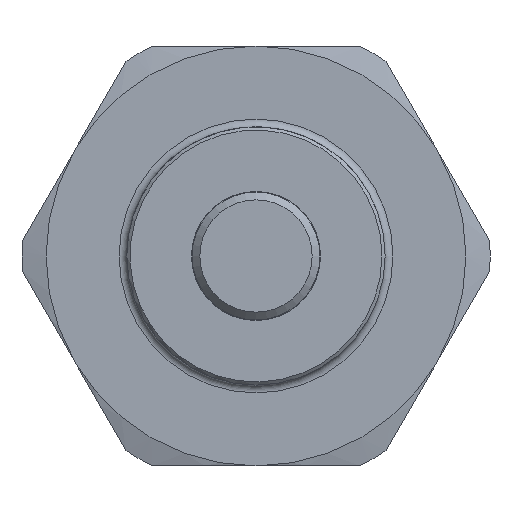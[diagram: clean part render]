
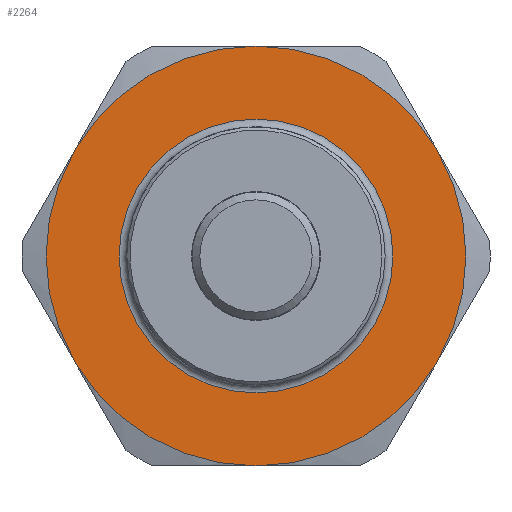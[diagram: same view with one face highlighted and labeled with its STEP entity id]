
A CAD part, left-side view. The second image highlights one B-rep face of the part: STEP entity #2264.
In plain terms, the highlighted planar face has unit normal (-1, 0, 0).
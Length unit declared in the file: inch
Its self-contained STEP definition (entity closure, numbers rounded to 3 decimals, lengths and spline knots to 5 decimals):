
#148=FACE_BOUND('',#603,.T.);
#171=PLANE('',#2585);
#459=FACE_OUTER_BOUND('',#602,.T.);
#602=EDGE_LOOP('',(#1932,#1933,#1934,#1935,#1936,#1937));
#603=EDGE_LOOP('',(#1938,#1939));
#654=CIRCLE('',#2351,0.53);
#655=CIRCLE('',#2352,0.53);
#803=CIRCLE('',#2586,0.8125);
#804=CIRCLE('',#2587,0.8125);
#805=CIRCLE('',#2588,0.8125);
#806=CIRCLE('',#2589,0.8125);
#807=CIRCLE('',#2590,0.8125);
#808=CIRCLE('',#2591,0.8125);
#854=VERTEX_POINT('',#3406);
#855=VERTEX_POINT('',#3408);
#1030=VERTEX_POINT('',#4575);
#1031=VERTEX_POINT('',#4576);
#1032=VERTEX_POINT('',#4578);
#1033=VERTEX_POINT('',#4580);
#1034=VERTEX_POINT('',#4582);
#1035=VERTEX_POINT('',#4584);
#1087=EDGE_CURVE('',#855,#854,#654,.T.);
#1088=EDGE_CURVE('',#854,#855,#655,.T.);
#1336=EDGE_CURVE('',#1030,#1031,#803,.T.);
#1337=EDGE_CURVE('',#1032,#1030,#804,.T.);
#1338=EDGE_CURVE('',#1033,#1032,#805,.T.);
#1339=EDGE_CURVE('',#1034,#1033,#806,.T.);
#1340=EDGE_CURVE('',#1035,#1034,#807,.T.);
#1341=EDGE_CURVE('',#1031,#1035,#808,.T.);
#1932=ORIENTED_EDGE('',*,*,#1336,.F.);
#1933=ORIENTED_EDGE('',*,*,#1337,.F.);
#1934=ORIENTED_EDGE('',*,*,#1338,.F.);
#1935=ORIENTED_EDGE('',*,*,#1339,.F.);
#1936=ORIENTED_EDGE('',*,*,#1340,.F.);
#1937=ORIENTED_EDGE('',*,*,#1341,.F.);
#1938=ORIENTED_EDGE('',*,*,#1087,.T.);
#1939=ORIENTED_EDGE('',*,*,#1088,.T.);
#2264=ADVANCED_FACE('',(#459,#148),#171,.T.);
#2351=AXIS2_PLACEMENT_3D('',#3409,#2722,#2723);
#2352=AXIS2_PLACEMENT_3D('',#3410,#2724,#2725);
#2585=AXIS2_PLACEMENT_3D('',#4574,#3244,#3245);
#2586=AXIS2_PLACEMENT_3D('',#4577,#3246,#3247);
#2587=AXIS2_PLACEMENT_3D('',#4579,#3248,#3249);
#2588=AXIS2_PLACEMENT_3D('',#4581,#3250,#3251);
#2589=AXIS2_PLACEMENT_3D('',#4583,#3252,#3253);
#2590=AXIS2_PLACEMENT_3D('',#4585,#3254,#3255);
#2591=AXIS2_PLACEMENT_3D('',#4586,#3256,#3257);
#2722=DIRECTION('center_axis',(1.,0.,0.));
#2723=DIRECTION('ref_axis',(0.,0.,-1.));
#2724=DIRECTION('center_axis',(1.,0.,0.));
#2725=DIRECTION('ref_axis',(0.,0.,-1.));
#3244=DIRECTION('center_axis',(-1.,0.,0.));
#3245=DIRECTION('ref_axis',(0.,0.,1.));
#3246=DIRECTION('center_axis',(1.,0.,0.));
#3247=DIRECTION('ref_axis',(0.,0.,-1.));
#3248=DIRECTION('center_axis',(1.,0.,0.));
#3249=DIRECTION('ref_axis',(0.,0.,-1.));
#3250=DIRECTION('center_axis',(1.,0.,0.));
#3251=DIRECTION('ref_axis',(0.,0.,-1.));
#3252=DIRECTION('center_axis',(1.,0.,0.));
#3253=DIRECTION('ref_axis',(0.,0.,-1.));
#3254=DIRECTION('center_axis',(1.,0.,0.));
#3255=DIRECTION('ref_axis',(0.,0.,-1.));
#3256=DIRECTION('center_axis',(1.,0.,0.));
#3257=DIRECTION('ref_axis',(0.,0.,-1.));
#3406=CARTESIAN_POINT('',(-0.312,0.,-0.53));
#3408=CARTESIAN_POINT('',(-0.312,0.53,0.));
#3409=CARTESIAN_POINT('Origin',(-0.312,0.,0.));
#3410=CARTESIAN_POINT('Origin',(-0.312,0.,0.));
#4574=CARTESIAN_POINT('Origin',(-0.312,0.8125,0.));
#4575=CARTESIAN_POINT('',(-0.312,-0.70365,-0.40625));
#4576=CARTESIAN_POINT('',(-0.312,0.,-0.8125));
#4577=CARTESIAN_POINT('Origin',(-0.312,0.,0.));
#4578=CARTESIAN_POINT('',(-0.312,-0.70365,0.40625));
#4579=CARTESIAN_POINT('Origin',(-0.312,0.,0.));
#4580=CARTESIAN_POINT('',(-0.312,0.,0.8125));
#4581=CARTESIAN_POINT('Origin',(-0.312,0.,0.));
#4582=CARTESIAN_POINT('',(-0.312,0.70365,0.40625));
#4583=CARTESIAN_POINT('Origin',(-0.312,0.,0.));
#4584=CARTESIAN_POINT('',(-0.312,0.70365,-0.40625));
#4585=CARTESIAN_POINT('Origin',(-0.312,0.,0.));
#4586=CARTESIAN_POINT('Origin',(-0.312,0.,0.));
